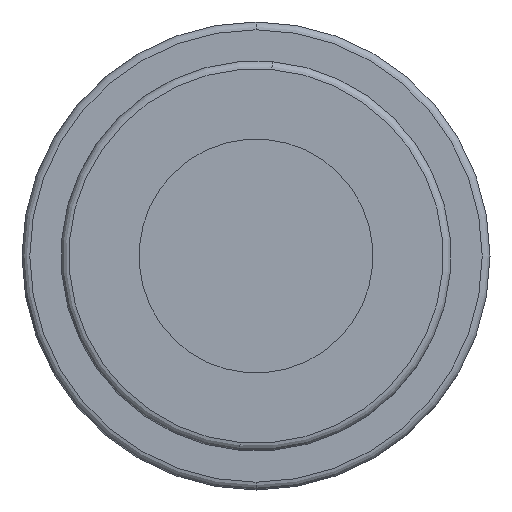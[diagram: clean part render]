
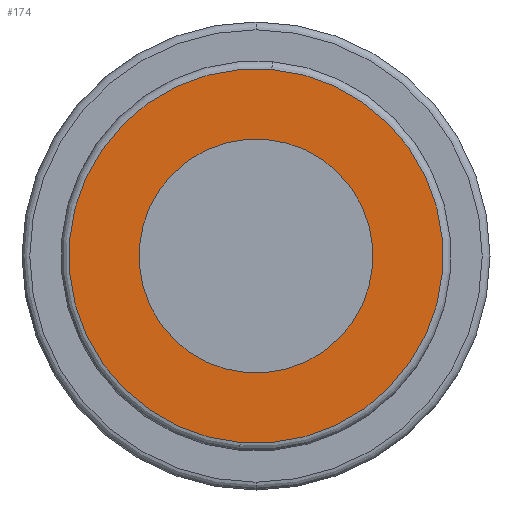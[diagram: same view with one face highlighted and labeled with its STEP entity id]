
A CAD part, front view. The second image highlights one B-rep face of the part: STEP entity #174.
In plain terms, the highlighted planar face has unit normal (0, -1, 0).
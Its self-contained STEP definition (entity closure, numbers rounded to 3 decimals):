
#11 = CARTESIAN_POINT ( 'NONE',  ( 0., -15., 0. ) ) ;
#16 = FACE_OUTER_BOUND ( 'NONE', #876, .T. ) ;
#22 = DIRECTION ( 'NONE',  ( 0., 0., -1. ) ) ;
#150 = DIRECTION ( 'NONE',  ( 0., -1., 0. ) ) ;
#153 = PLANE ( 'NONE',  #460 ) ;
#172 = EDGE_CURVE ( 'NONE', #614, #312, #766, .T. ) ;
#174 = ADVANCED_FACE ( 'NONE', ( #16 ), #153, .T. ) ;
#232 = AXIS2_PLACEMENT_3D ( 'NONE', #846, #150, #775 ) ;
#287 = CARTESIAN_POINT ( 'NONE',  ( 0., -15., 24. ) ) ;
#312 = VERTEX_POINT ( 'NONE', #694 ) ;
#455 = AXIS2_PLACEMENT_3D ( 'NONE', #11, #532, #22 ) ;
#460 = AXIS2_PLACEMENT_3D ( 'NONE', #1082, #760, #840 ) ;
#524 = EDGE_CURVE ( 'NONE', #312, #614, #610, .T. ) ;
#532 = DIRECTION ( 'NONE',  ( 0., -1., 0. ) ) ;
#539 = ORIENTED_EDGE ( 'NONE', *, *, #172, .T. ) ;
#610 = CIRCLE ( 'NONE', #455, 24. ) ;
#614 = VERTEX_POINT ( 'NONE', #287 ) ;
#694 = CARTESIAN_POINT ( 'NONE',  ( 0., -15., -24. ) ) ;
#760 = DIRECTION ( 'NONE',  ( 0., -1., 0. ) ) ;
#766 = CIRCLE ( 'NONE', #232, 24. ) ;
#775 = DIRECTION ( 'NONE',  ( 0., 0., -1. ) ) ;
#840 = DIRECTION ( 'NONE',  ( 0., 0., -1. ) ) ;
#846 = CARTESIAN_POINT ( 'NONE',  ( 0., -15., 0. ) ) ;
#876 = EDGE_LOOP ( 'NONE', ( #954, #539 ) ) ;
#954 = ORIENTED_EDGE ( 'NONE', *, *, #524, .T. ) ;
#1082 = CARTESIAN_POINT ( 'NONE',  ( 0., -15., 0. ) ) ;
